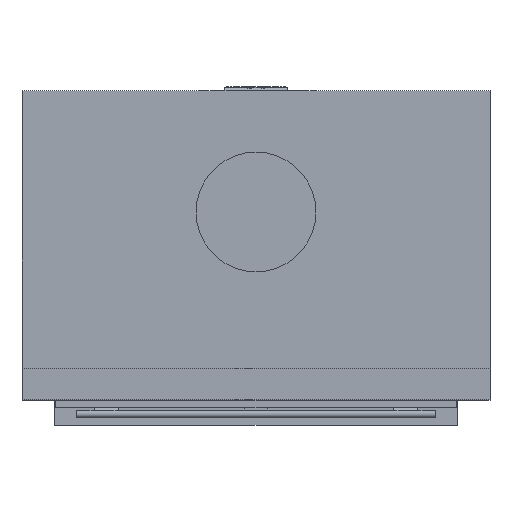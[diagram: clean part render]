
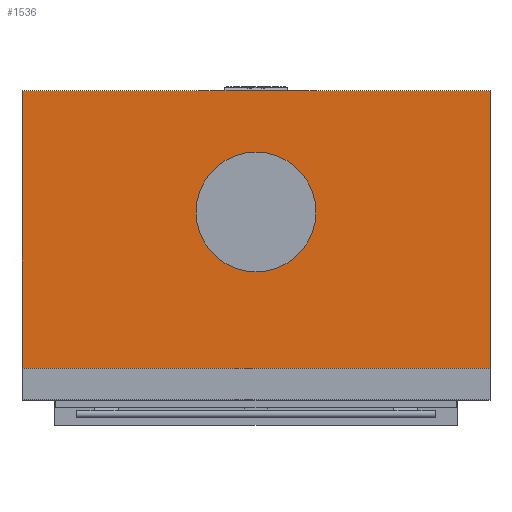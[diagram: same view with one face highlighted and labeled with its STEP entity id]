
A CAD part, top view. The second image highlights one B-rep face of the part: STEP entity #1536.
In plain terms, the highlighted planar face has unit normal (0, 0, 1).
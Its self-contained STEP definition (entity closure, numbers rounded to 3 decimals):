
#1536 = ADVANCED_FACE( '', ( #3833, #3834 ), #3835, .T. );
#3833 = FACE_OUTER_BOUND( '', #6981, .T. );
#3834 = FACE_BOUND( '', #6982, .T. );
#3835 = PLANE( '', #6983 );
#6981 = EDGE_LOOP( '', ( #12208, #12209, #12210, #12211 ) );
#6982 = EDGE_LOOP( '', ( #12212 ) );
#6983 = AXIS2_PLACEMENT_3D( '', #12213, #12214, #12215 );
#12208 = ORIENTED_EDGE( '', *, *, #19895, .T. );
#12209 = ORIENTED_EDGE( '', *, *, #21396, .F. );
#12210 = ORIENTED_EDGE( '', *, *, #21397, .F. );
#12211 = ORIENTED_EDGE( '', *, *, #20188, .T. );
#12212 = ORIENTED_EDGE( '', *, *, #21398, .F. );
#12213 = CARTESIAN_POINT( '', ( 390.5, -60.143, 1407.6 ) );
#12214 = DIRECTION( '', ( 0., 0., 1. ) );
#12215 = DIRECTION( '', ( 1., 0., 0. ) );
#19895 = EDGE_CURVE( '', #23836, #23833, #23837, .T. );
#20188 = EDGE_CURVE( '', #24409, #23836, #24410, .T. );
#21396 = EDGE_CURVE( '', #26330, #23833, #26331, .T. );
#21397 = EDGE_CURVE( '', #24409, #26330, #26332, .T. );
#21398 = EDGE_CURVE( '', #26333, #26333, #26334, .T. );
#23833 = VERTEX_POINT( '', #29363 );
#23836 = VERTEX_POINT( '', #29367 );
#23837 = LINE( '', #29368, #29369 );
#24409 = VERTEX_POINT( '', #31456 );
#24410 = LINE( '', #31457, #31458 );
#26330 = VERTEX_POINT( '', #34861 );
#26331 = LINE( '', #34862, #34863 );
#26332 = LINE( '', #34864, #34865 );
#26333 = VERTEX_POINT( '', #34866 );
#26334 = CIRCLE( '', #34867, 100. );
#29363 = CARTESIAN_POINT( '', ( -390.5, -60.143, 1407.6 ) );
#29367 = CARTESIAN_POINT( '', ( 390.5, -60.143, 1407.6 ) );
#29368 = CARTESIAN_POINT( '', ( 390.5, -60.143, 1407.6 ) );
#29369 = VECTOR( '', #39417, 1000. );
#31456 = CARTESIAN_POINT( '', ( 390.5, -523.257, 1407.6 ) );
#31457 = CARTESIAN_POINT( '', ( 390.5, -60.143, 1407.6 ) );
#31458 = VECTOR( '', #39437, 1000. );
#34861 = CARTESIAN_POINT( '', ( -390.5, -523.257, 1407.6 ) );
#34862 = CARTESIAN_POINT( '', ( -390.5, -60.143, 1407.6 ) );
#34863 = VECTOR( '', #40595, 1000. );
#34864 = CARTESIAN_POINT( '', ( 390.5, -523.257, 1407.6 ) );
#34865 = VECTOR( '', #40596, 1000. );
#34866 = CARTESIAN_POINT( '', ( -100., -262.501, 1407.6 ) );
#34867 = AXIS2_PLACEMENT_3D( '', #40597, #40598, #40599 );
#39417 = DIRECTION( '', ( -1., 0., 0. ) );
#39437 = DIRECTION( '', ( 0., 1., 0. ) );
#40595 = DIRECTION( '', ( 0., 1., 0. ) );
#40596 = DIRECTION( '', ( -1., 0., 0. ) );
#40597 = CARTESIAN_POINT( '', ( 0., -262.501, 1407.6 ) );
#40598 = DIRECTION( '', ( 0., 0., 1. ) );
#40599 = DIRECTION( '', ( -1., 0., 0. ) );
